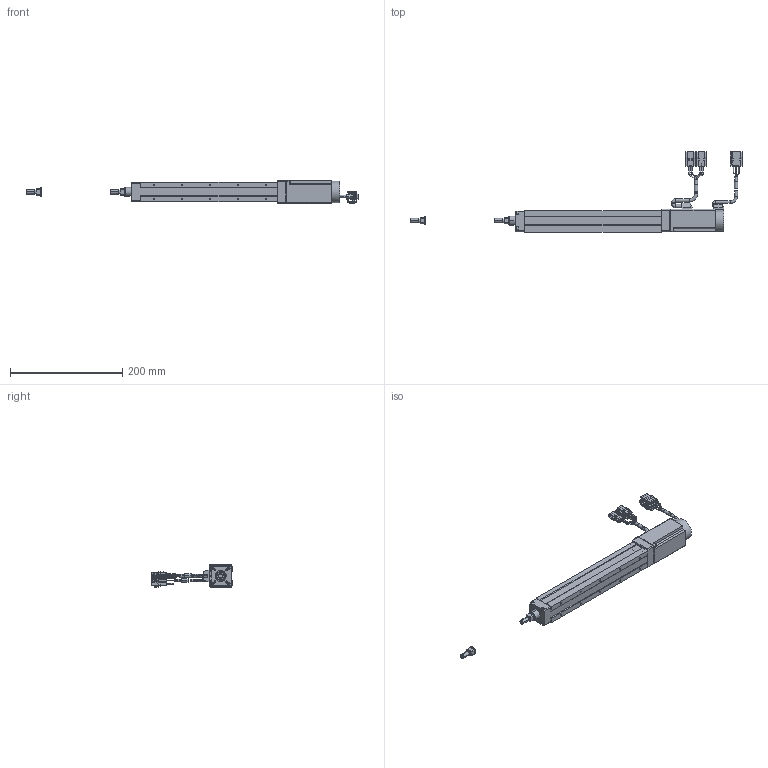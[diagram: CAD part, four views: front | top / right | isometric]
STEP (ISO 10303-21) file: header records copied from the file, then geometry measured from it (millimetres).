
FILE_DESCRIPTION((''),'2;1');
FILE_NAME('BET3D-ST-C_B-15_IGS_PRT','2017-06-18T',(' '),(''),'PRO/ENGINEER BY PARAMETRIC TECHNOLOGY CORPORATION, 2015030','PRO/ENGINEER BY PARAMETRIC TECHNOLOGY CORPORATION, 2015030','');
FILE_SCHEMA(('CONFIG_CONTROL_DESIGN'));
Length unit declared in the file: millimetre
Products named in the file (1): BET3D-ST-C_B-15_IGS_PRT
Bounding box: 592.5 x 144.2 x 40.28 mm (x, y, z)
Volume: 388604.3 mm3; surface area: 119751.4 mm2
Topology: 7 solids, 33 shells, 975 faces, 2509 edges, 1595 vertices
Faces by surface type: plane 583, cylinder 262, torus 68, cone 58, sphere 4
Entity records: 29468 total; most frequent: CARTESIAN_POINT 5319, DIRECTION 5059, ORIENTED_EDGE 4902, EDGE_CURVE 2467, VECTOR 1745, LINE 1745, AXIS2_PLACEMENT_3D 1657, VERTEX_POINT 1595
